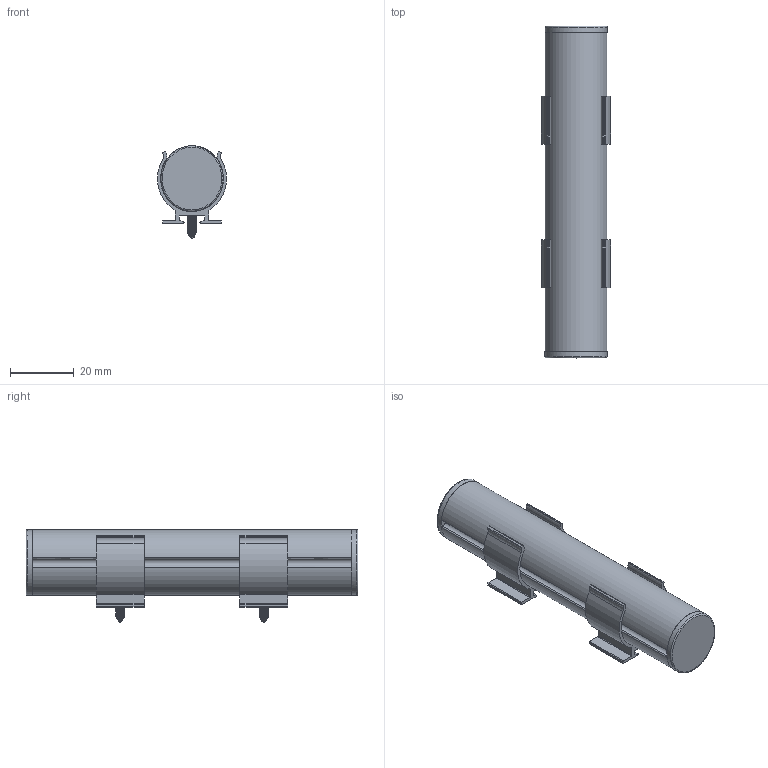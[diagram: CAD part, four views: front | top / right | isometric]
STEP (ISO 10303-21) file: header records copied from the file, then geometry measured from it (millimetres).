
FILE_DESCRIPTION(/* description */ (''),/* implementation_level */ '2;1');
FILE_NAME(/* name */ 'c:\worker\convert-fusion-r02\tmp\job-1\164\output\files\e9c69094-0c4b-4d1d-8d9c-010c0a2f8ac4\3586b6df-1dfc-4752-9204-f0e50093df70.stp',/* time_stamp */ '2022-03-30T12:53:45+00:00',/* author */ (''),/* organization */ (''),/* preprocessor_version */ 'ST-DEVELOPER v18.1',/* originating_system */ 'Autodesk Translation Framework v10.14.0.1471',/* authorisation */ '');
FILE_SCHEMA (('AUTOMOTIVE_DESIGN { 1 0 10303 214 3 1 1 }'));
Length unit declared in the file: millimetre
Products named in the file (9): CHAN-360CIRIP65; M3x6mm; End Cap w/ Cable Out; LED Strip Light; End Cap; Light Diffuser / Lens; Aluminium Profile; Mounting Bracket; Mounting Bracket (1)
Assembly tree (12 placements, depth 2):
  CHAN-360CIRIP65
    M3x6mm  x2
    End Cap w/ Cable Out
    LED Strip Light  x4
    End Cap
    Light Diffuser / Lens
    Aluminium Profile
    Mounting Bracket
    Mounting Bracket (1)
Bounding box: 21.65 x 104.03 x 28.96 mm (x, y, z)
Volume: 15720.4 mm3; surface area: 31021.3 mm2
Topology: 160 solids, 160 shells, 1578 faces, 3556 edges, 2296 vertices
Faces by surface type: plane 781, cylinder 415, bspline 172, sphere 120, torus 78, cone 12
Full cylindrical faces by diameter (mm): 2.356 x8, 2.927 x14, 3 x2
Entity records: 25730 total; most frequent: CARTESIAN_POINT 9245, ORIENTED_EDGE 3430, DIRECTION 3216, EDGE_CURVE 1715, AXIS2_PLACEMENT_3D 1238, VERTEX_POINT 1088, LINE 740, VECTOR 740
